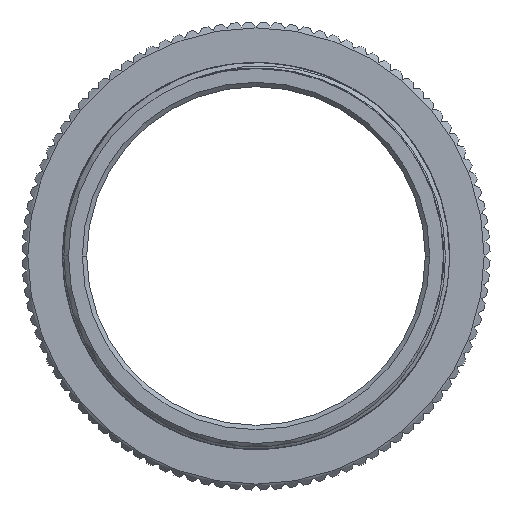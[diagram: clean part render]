
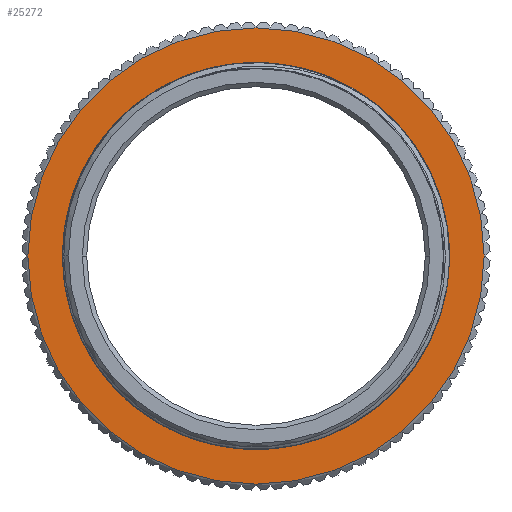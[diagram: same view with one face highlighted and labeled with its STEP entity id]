
A CAD part, front view. The second image highlights one B-rep face of the part: STEP entity #25272.
In plain terms, the highlighted planar face has unit normal (0, -1, 0).
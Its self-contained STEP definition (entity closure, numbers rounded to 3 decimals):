
#13413=CARTESIAN_POINT('',(0.,0.,0.));
#13414=DIRECTION('',(0.,-1.,0.));
#13415=DIRECTION('',(1.,0.,0.));
#13416=AXIS2_PLACEMENT_3D('',#13413,#13414,#13415);
#13418=CARTESIAN_POINT('',(0.,0.,0.));
#13419=DIRECTION('',(0.,-1.,0.));
#13420=DIRECTION('',(-1.,0.,0.));
#13421=AXIS2_PLACEMENT_3D('',#13418,#13419,#13420);
#13431=CARTESIAN_POINT('',(0.,0.,0.));
#13432=DIRECTION('',(0.,-1.,0.));
#13433=DIRECTION('',(0.,0.,-1.));
#13434=AXIS2_PLACEMENT_3D('',#13431,#13432,#13433);
#13436=CARTESIAN_POINT('',(0.,0.,0.));
#13437=DIRECTION('',(0.,1.,0.));
#13438=DIRECTION('',(0.,0.,-1.));
#13439=AXIS2_PLACEMENT_3D('',#13436,#13437,#13438);
#17288=CARTESIAN_POINT('',(15.5,0.,0.));
#17289=CARTESIAN_POINT('',(-15.5,0.,0.));
#17290=VERTEX_POINT('',#17288);
#17291=VERTEX_POINT('',#17289);
#17312=CARTESIAN_POINT('',(0.,0.,-12.74));
#17314=VERTEX_POINT('',#17312);
#17320=CARTESIAN_POINT('',(0.,0.,12.74));
#17322=VERTEX_POINT('',#17320);
#25257=CARTESIAN_POINT('',(0.,0.,0.));
#25258=DIRECTION('',(0.,1.,0.));
#25259=DIRECTION('',(1.,0.,0.));
#25260=AXIS2_PLACEMENT_3D('',#25257,#25258,#25259);
#25261=PLANE('',#25260);
#25262=ORIENTED_EDGE('',*,*,#25004,.F.);
#25263=ORIENTED_EDGE('',*,*,#24232,.F.);
#25264=EDGE_LOOP('',(#25262,#25263));
#25265=FACE_OUTER_BOUND('',#25264,.F.);
#25267=ORIENTED_EDGE('',*,*,#25266,.T.);
#25269=ORIENTED_EDGE('',*,*,#25268,.F.);
#25270=EDGE_LOOP('',(#25267,#25269));
#25271=FACE_BOUND('',#25270,.F.);
#25272=ADVANCED_FACE('',(#25265,#25271),#25261,.F.);
#13417=CIRCLE('',#13416,15.5);
#13422=CIRCLE('',#13421,15.5);
#13435=CIRCLE('',#13434,12.74);
#13440=CIRCLE('',#13439,12.74);
#24232=EDGE_CURVE('',#17291,#17290,#13422,.T.);
#25004=EDGE_CURVE('',#17290,#17291,#13417,.T.);
#25266=EDGE_CURVE('',#17314,#17322,#13435,.T.);
#25268=EDGE_CURVE('',#17314,#17322,#13440,.T.);
